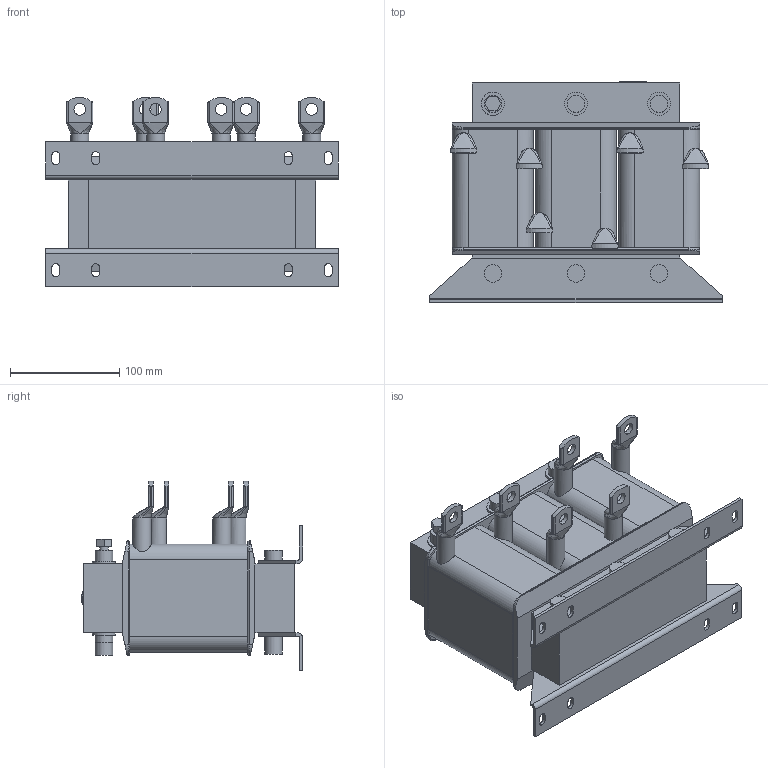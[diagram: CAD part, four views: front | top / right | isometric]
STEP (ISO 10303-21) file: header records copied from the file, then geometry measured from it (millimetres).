
FILE_DESCRIPTION (( 'STEP AP214' ), '1' );
FILE_NAME ('21Z1B03-1000.STEP', '2022-04-12T14:27:55', ( '' ), ( '' ), 'SwSTEP 2.0', 'SolidWorks 2019', '' );
FILE_SCHEMA (( 'AUTOMOTIVE_DESIGN' ));
Length unit declared in the file: millimetre
Products named in the file (1): 21Z1B03-1000
Bounding box: 267 x 202.02 x 173 mm (x, y, z)
Volume: 3646622.9 mm3; surface area: 273114.1 mm2
Topology: 1 solids, 1 shells, 354 faces, 929 edges, 598 vertices
Faces by surface type: plane 165, cylinder 120, bspline 61, torus 8
Full cylindrical faces by diameter (mm): 8 x1, 10.5 x6, 16 x12, 16.5 x6, 21 x6
Entity records: 15031 total; most frequent: CARTESIAN_POINT 6778, ORIENTED_EDGE 1760, DIRECTION 1400, EDGE_CURVE 880, VERTEX_POINT 580, AXIS2_PLACEMENT_3D 492, EDGE_LOOP 442, LINE 416
